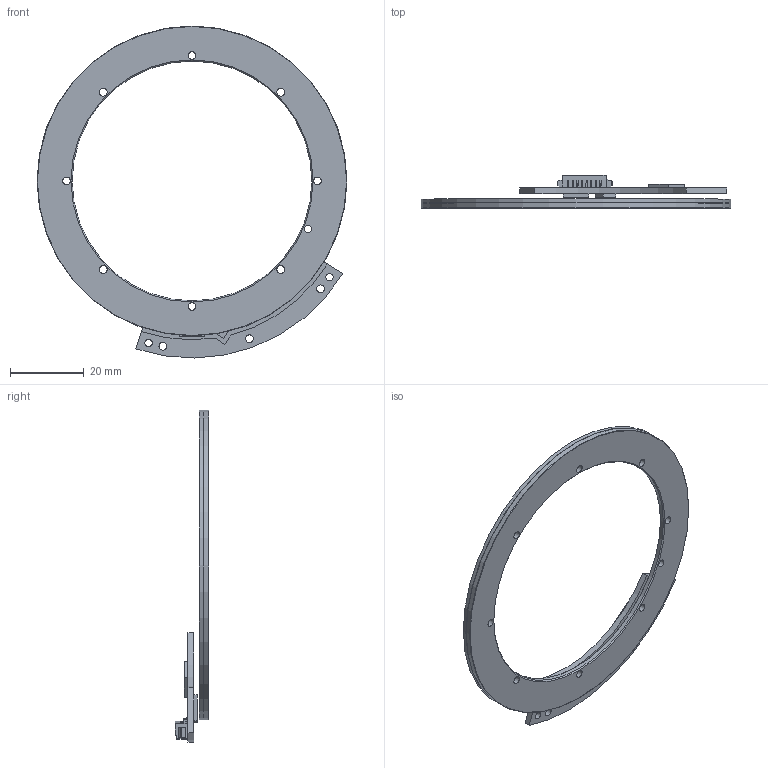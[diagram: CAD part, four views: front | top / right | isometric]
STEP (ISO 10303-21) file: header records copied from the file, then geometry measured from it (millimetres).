
FILE_DESCRIPTION (( 'STEP AP203' ), '1' );
FILE_NAME ('eCoder65.STEP', '2022-12-28T09:46:35', ( 'Windows User' ), ( 'P R C' ), 'SwSTEP 2.0', 'SolidWorks 2021', '' );
FILE_SCHEMA (( 'CONFIG_CONTROL_DESIGN' ));
Length unit declared in the file: millimetre
Products named in the file (1): eCoder65
Bounding box: 84 x 9 x 90 mm (x, y, z)
Volume: 6191.1 mm3; surface area: 11051.9 mm2
Topology: 6 solids, 6 shells, 301 faces, 806 edges, 524 vertices
Faces by surface type: plane 270, cylinder 27, cone 4
Full cylindrical faces by diameter (mm): 2 x3, 2.1 x11, 4.3 x3, 65 x1, 71 x1, 84 x2
Entity records: 9220 total; most frequent: CARTESIAN_POINT 1599, ORIENTED_EDGE 1554, DIRECTION 1439, EDGE_CURVE 777, LINE 719, VECTOR 719, VERTEX_POINT 520, EDGE_LOOP 391
